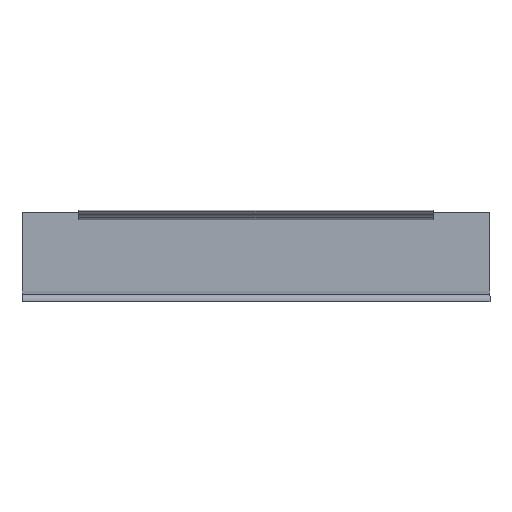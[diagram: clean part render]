
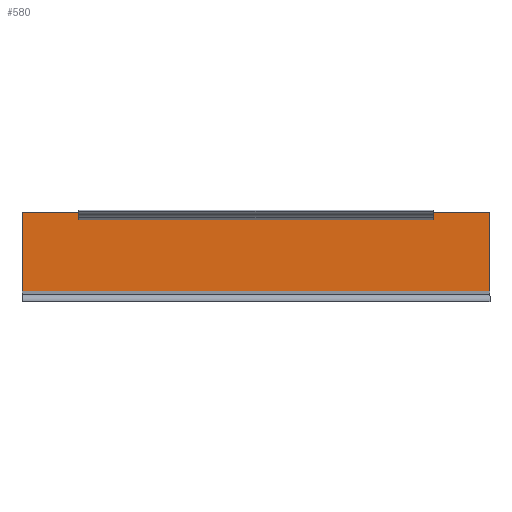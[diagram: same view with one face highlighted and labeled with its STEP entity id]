
A CAD part, left-side view. The second image highlights one B-rep face of the part: STEP entity #580.
In plain terms, the highlighted planar face has unit normal (-1, 0, 0).
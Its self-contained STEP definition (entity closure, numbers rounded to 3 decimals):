
#7 = LINE ( 'NONE', #207, #52 ) ;
#9 = LINE ( 'NONE', #212, #73 ) ;
#14 = VECTOR ( 'NONE', #198, 1000. ) ;
#24 = VECTOR ( 'NONE', #357, 1000. ) ;
#35 = ORIENTED_EDGE ( 'NONE', *, *, #539, .T. ) ;
#37 = ORIENTED_EDGE ( 'NONE', *, *, #117, .F. ) ;
#38 = LINE ( 'NONE', #214, #14 ) ;
#39 = LINE ( 'NONE', #332, #77 ) ;
#49 = ORIENTED_EDGE ( 'NONE', *, *, #113, .F. ) ;
#52 = VECTOR ( 'NONE', #152, 1000. ) ;
#57 = ORIENTED_EDGE ( 'NONE', *, *, #110, .T. ) ;
#71 = LINE ( 'NONE', #154, #72 ) ;
#72 = VECTOR ( 'NONE', #174, 1000. ) ;
#73 = VECTOR ( 'NONE', #148, 1000. ) ;
#77 = VECTOR ( 'NONE', #331, 1000. ) ;
#79 = ORIENTED_EDGE ( 'NONE', *, *, #544, .F. ) ;
#82 = LINE ( 'NONE', #366, #24 ) ;
#99 = ORIENTED_EDGE ( 'NONE', *, *, #553, .T. ) ;
#100 = ORIENTED_EDGE ( 'NONE', *, *, #119, .T. ) ;
#106 = ORIENTED_EDGE ( 'NONE', *, *, #520, .F. ) ;
#110 = EDGE_CURVE ( 'NONE', #146, #177, #38, .T. ) ;
#113 = EDGE_CURVE ( 'NONE', #180, #223, #7, .T. ) ;
#117 = EDGE_CURVE ( 'NONE', #146, #160, #9, .T. ) ;
#119 = EDGE_CURVE ( 'NONE', #180, #194, #71, .T. ) ;
#128 = CARTESIAN_POINT ( 'NONE',  ( 6.024, 34., -8.71 ) ) ;
#146 = VERTEX_POINT ( 'NONE', #161 ) ;
#148 = DIRECTION ( 'NONE',  ( 0., 0., -1. ) ) ;
#152 = DIRECTION ( 'NONE',  ( 0., 0., -1. ) ) ;
#153 = VERTEX_POINT ( 'NONE', #128 ) ;
#154 = CARTESIAN_POINT ( 'NONE',  ( 6.024, 279.5, -4.106 ) ) ;
#159 = CARTESIAN_POINT ( 'NONE',  ( 6.024, 0., -51.31 ) ) ;
#160 = VERTEX_POINT ( 'NONE', #159 ) ;
#161 = CARTESIAN_POINT ( 'NONE',  ( 6.024, 0., -4.106 ) ) ;
#172 = CARTESIAN_POINT ( 'NONE',  ( 6.024, 34., -4.106 ) ) ;
#174 = DIRECTION ( 'NONE',  ( 0., 1., 0. ) ) ;
#177 = VERTEX_POINT ( 'NONE', #172 ) ;
#180 = VERTEX_POINT ( 'NONE', #192 ) ;
#185 = CARTESIAN_POINT ( 'NONE',  ( 6.024, 245.5, -8.71 ) ) ;
#189 = VERTEX_POINT ( 'NONE', #227 ) ;
#192 = CARTESIAN_POINT ( 'NONE',  ( 6.024, 245.5, -4.106 ) ) ;
#194 = VERTEX_POINT ( 'NONE', #224 ) ;
#198 = DIRECTION ( 'NONE',  ( 0., 1., 0. ) ) ;
#207 = CARTESIAN_POINT ( 'NONE',  ( 6.024, 245.5, -2.932 ) ) ;
#212 = CARTESIAN_POINT ( 'NONE',  ( 6.024, 0., -9.925 ) ) ;
#214 = CARTESIAN_POINT ( 'NONE',  ( 6.024, 279.5, -4.106 ) ) ;
#223 = VERTEX_POINT ( 'NONE', #185 ) ;
#224 = CARTESIAN_POINT ( 'NONE',  ( 6.024, 279.5, -4.106 ) ) ;
#227 = CARTESIAN_POINT ( 'NONE',  ( 6.024, 279.5, -51.31 ) ) ;
#250 = DIRECTION ( 'NONE',  ( 0., 0., -1. ) ) ;
#251 = DIRECTION ( 'NONE',  ( -1., 0., 0. ) ) ;
#260 = CARTESIAN_POINT ( 'NONE',  ( 6.024, 279.5, -9.925 ) ) ;
#263 = PLANE ( 'NONE',  #514 ) ;
#321 = DIRECTION ( 'NONE',  ( 0., -1., 0. ) ) ;
#322 = CARTESIAN_POINT ( 'NONE',  ( 6.024, 279.5, -51.31 ) ) ;
#331 = DIRECTION ( 'NONE',  ( 0., -1., 0. ) ) ;
#332 = CARTESIAN_POINT ( 'NONE',  ( 6.024, 279.5, -8.71 ) ) ;
#336 = DIRECTION ( 'NONE',  ( 0., 0., -1. ) ) ;
#337 = CARTESIAN_POINT ( 'NONE',  ( 6.024, 279.5, -8.71 ) ) ;
#357 = DIRECTION ( 'NONE',  ( 0., 0., 1. ) ) ;
#366 = CARTESIAN_POINT ( 'NONE',  ( 6.024, 34., -2.932 ) ) ;
#446 = EDGE_LOOP ( 'NONE', ( #37, #57, #106, #79, #49, #100, #35, #99 ) ) ;
#514 = AXIS2_PLACEMENT_3D ( 'NONE', #260, #251, #250 ) ;
#520 = EDGE_CURVE ( 'NONE', #153, #177, #82, .T. ) ;
#539 = EDGE_CURVE ( 'NONE', #194, #189, #639, .T. ) ;
#544 = EDGE_CURVE ( 'NONE', #223, #153, #39, .T. ) ;
#553 = EDGE_CURVE ( 'NONE', #189, #160, #596, .T. ) ;
#580 = ADVANCED_FACE ( 'NONE', ( #627 ), #263, .T. ) ;
#596 = LINE ( 'NONE', #322, #597 ) ;
#597 = VECTOR ( 'NONE', #321, 1000. ) ;
#627 = FACE_OUTER_BOUND ( 'NONE', #446, .T. ) ;
#639 = LINE ( 'NONE', #337, #640 ) ;
#640 = VECTOR ( 'NONE', #336, 1000. ) ;
